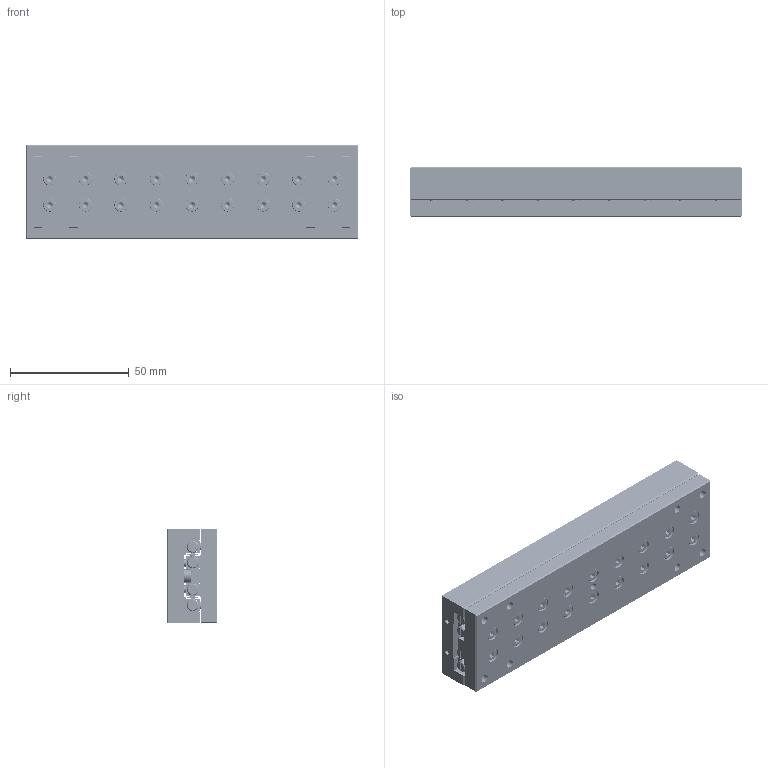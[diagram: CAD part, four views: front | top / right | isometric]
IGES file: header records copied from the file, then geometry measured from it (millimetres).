
Start section: SolidWorks IGES file using analytic representation for surfaces
Global section: file name: C:\Documents and Settings\IanO.IANOHOME\My Documents\Wix and Auto CAD Work\CAD Models\Parametric Models\Auto Models\L1020\L1020_IGES\L1020.040-140.igs; native system: SolidWorks 2009; preprocessor: SolidWorks 2009; author: IanO; date: 110922.162454; units: millimetre
Bounding box: 140 x 21 x 40 mm (x, y, z)
Surface area: 62875.7 mm2 (no closed solid volume)
Topology: 0 solids, 0 shells, 2409 faces, 31784 edges, 31694 vertices
Faces by surface type: bspline 1471, revolution 938
